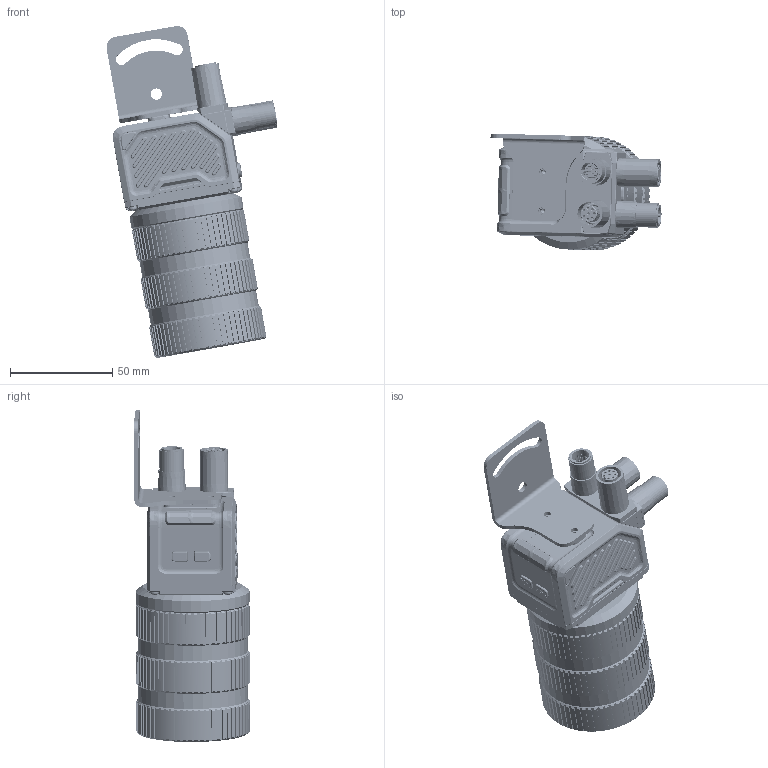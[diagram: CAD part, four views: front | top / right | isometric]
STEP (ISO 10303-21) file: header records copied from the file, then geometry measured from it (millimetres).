
FILE_DESCRIPTION((''),'2;1');
FILE_NAME('000-00_ASM','2025-11-11T14:38:31',('zhangxiangyu15'),(''),'CREO PARAMETRIC BY PTC INC, 2020044','CREO PARAMETRIC BY PTC INC, 2020044','');
FILE_SCHEMA(('CONFIG_CONTROL_DESIGN'));
Products named in the file (61): DE-13-001158; DE-13-001167_ASM; DE-17-002004; DE-12-003150; DE-19-007104; DE-17-002006; DE-12-003143; DE-12-003144; DE-20-014006_ASM; PRT0083; DE-13-001159; DE-13-001165; 2023-049-CPG; DE-13-001166_ASM; L102-M12-ZJ12A01-ALL; CNT12-M12-LT08A02_ALL; DE-17-002005; DE-13-003212; DE-13-003211_ASM; DE-13-003210; SC-KM2X8B-GB819; DE-13-001159_117_1_1; DE-13-001165_99_1; DE-13-001166_ASM_29_ASM_1_ASM; DE-20-014001_ASM_125_ASM_1_ASM; DE-20-014001_ASM_ASM_1_ASM; DE-20-014001_ASM_ASM_20250604_ASM; DE-20-014001_AF0_ASM; DE-20-014001_AF1_ASM; PRT0123; PRT0124; DE-17-004528; DE-20-014032_ASM; DE-14-082678; DE-14-082677; DE-15-000090; DE-1A-000299; DE-11-135946; 8002-CLS-M2-0; DE-11-135946_ASM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
Assembly tree (91 placements, depth 8):
  000-00_ASM
    DE-20-014032_ASM
      DE-13-001167_ASM
        DE-13-001158
      DE-17-002004
      DE-12-003150
      DE-19-007104  x2
      DE-20-014006_ASM
        DE-17-002006
        DE-12-003143
        DE-12-003144
      PRT0083
      DE-20-014001_AF0_ASM
        DE-13-001159
        DE-13-001166_ASM
          DE-13-001165
          2023-049-CPG
        L102-M12-ZJ12A01-ALL
        CNT12-M12-LT08A02_ALL
        DE-17-002005
        DE-13-003211_ASM
          DE-13-003212
        DE-13-003210
        SC-KM2X8B-GB819  x2
        DE-20-014001_ASM_ASM_20250604_ASM
          DE-20-014001_ASM_ASM_1_ASM
            DE-20-014001_ASM_125_ASM_1_ASM
              DE-13-001159_117_1_1
              DE-13-001166_ASM_29_ASM_1_ASM
                DE-13-001165_99_1
      DE-20-014001_AF1_ASM
        DE-13-001159
        DE-13-001166_ASM
          DE-13-001165
          2023-049-CPG
        L102-M12-ZJ12A01-ALL
        CNT12-M12-LT08A02_ALL
        DE-17-002005
        DE-13-003211_ASM
          DE-13-003212
        DE-13-003210
        SC-KM2X8B-GB819  x2
        DE-20-014001_ASM_ASM_20250604_ASM
          DE-20-014001_ASM_ASM_1_ASM
            DE-20-014001_ASM_125_ASM_1_ASM
              DE-13-001159_117_1_1
              DE-13-001166_ASM_29_ASM_1_ASM
                DE-13-001165_99_1
      PRT0123
      PRT0124
      DE-17-004528
    DE-20-014033_ASM
      C0_ASM
        DE-14-082678
        DE-14-082677
        DE-15-000090
        DE-1A-000299
        DE-11-135946_ASM
          DE-11-135946
          8002-CLS-M2-0  x2
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Bounding box: 83.43 x 56.65 x 161.96 mm (x, y, z)
Volume: 122382.4 mm3; surface area: 146332 mm2
Topology: 71 solids, 204 shells, 10079 faces, 25942 edges, 16303 vertices
Faces by surface type: cylinder 3736, plane 3721, torus 937, cone 920, bspline 493, extrusion 135, sphere 125, revolution 12
Entity records: 252127 total; most frequent: CARTESIAN_POINT 88303, DIRECTION 34474, ORIENTED_EDGE 34110, EDGE_CURVE 17166, AXIS2_PLACEMENT_3D 13315, VERTEX_POINT 10843, VECTOR 7838, LINE 7712
